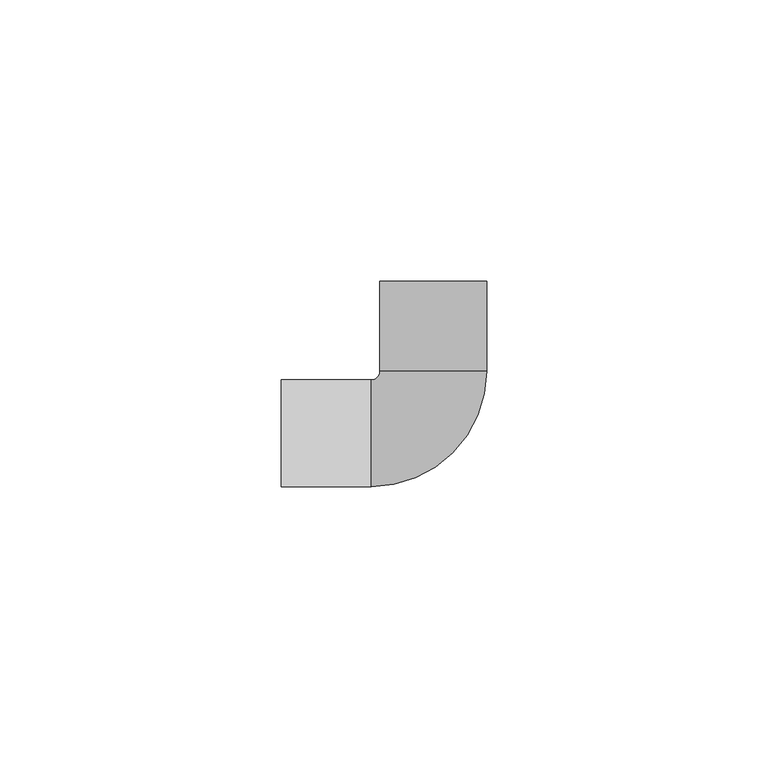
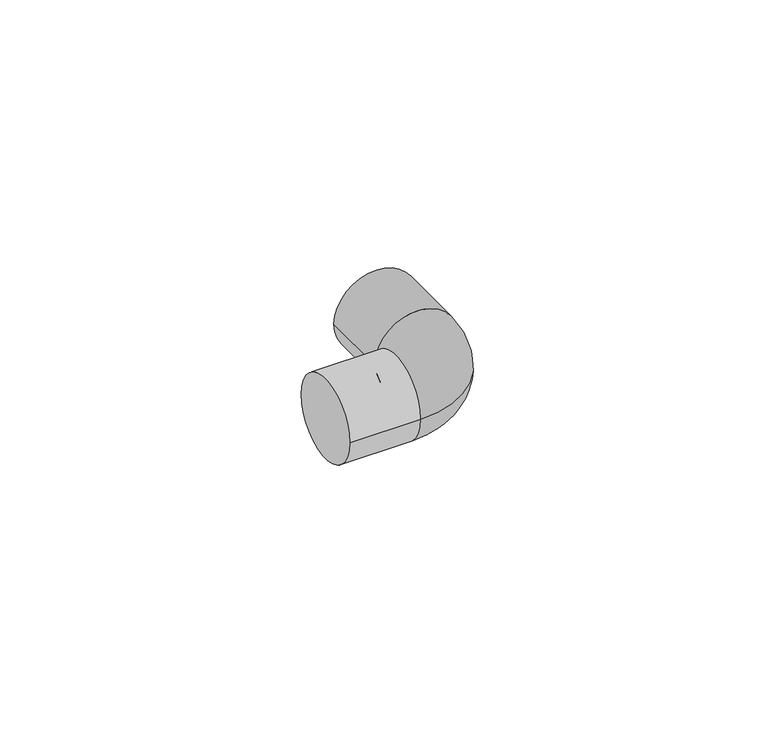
"""IFC4 building model written with IfcOpenShell, lengths in millimetres: pipe fitting geometry, 01101002 : Joelho a 90º."""

from ifc_helpers import new_model, si_unit, point, frame, origin, place, context, project, spatial, circle_curve, ellipse_curve, trimmed, source, transform, mapped, element, save
from ifc_brep_helpers import plane_surface, cylinder_surface, revolved_surface, advanced_brep


def pipe_fitting_e1d31a7d(model_context):
    return source(origin(), model_context, "Body", "AdvancedBrep", [
        advanced_brep(
        [(-11.0, -9.5, 0.0), (9.5, 11.0, 0.0), (-9.5, 11.0, 0.0), (-11.0, 9.5, 0.0), (-9.5, 27.0, 0.0), (9.5, 27.0, 0.0), (-27.0, 9.5, 0.0), (-27.0, -9.5, 0.0)],
        [
            (0, 1, circle_curve(frame((-11.0, 11.0, 0.0), z_axis=(0.0, 0.0, 1.0), x_axis=(1.0, 0.0, 0.0)), 20.5)),
            (1, 2, circle_curve(frame((0.0, 11.0, 0.0), z_axis=(0.0, -1.0, 0.0), x_axis=(1.0, 0.0, 0.0)), 9.5)),
            (2, 3, circle_curve(frame((-11.0, 11.0, 0.0), z_axis=(0.0, 0.0, -1.0), x_axis=(1.0, 0.0, 0.0)), 1.5)),
            (3, 0, circle_curve(frame((-11.0, 0.0, 0.0), z_axis=(1.0, 0.0, 0.0), x_axis=(0.0, -1.0, 0.0)), 9.5)),
            (2, 1, circle_curve(frame((0.0, 11.0, 0.0), z_axis=(0.0, -1.0, 0.0), x_axis=(1.0, 0.0, 0.0)), 9.5)),
            (0, 3, circle_curve(frame((-11.0, 0.0, 0.0), z_axis=(1.0, 0.0, 0.0), x_axis=(0.0, -1.0, 0.0)), 9.5)),
            (4, 5, circle_curve(frame((0.0, 27.0, 0.0), z_axis=(0.0, 1.0, 0.0), x_axis=(1.0, 0.0, 0.0)), 9.5)),
            (5, 4, circle_curve(frame((0.0, 27.0, 0.0), z_axis=(0.0, 1.0, 0.0), x_axis=(1.0, 0.0, 0.0)), 9.5)),
            (6, 7, circle_curve(frame((-27.0, 0.0, 0.0), z_axis=(-1.0, 0.0, 0.0), x_axis=(0.0, -1.0, 0.0)), 9.5)),
            (7, 6, circle_curve(frame((-27.0, 0.0, 0.0), z_axis=(-1.0, 0.0, 0.0), x_axis=(0.0, -1.0, 0.0)), 9.5)),
            (3, 6),
            (7, 0),
            (4, 2),
            (1, 5),
        ],
        [
            revolved_surface(trimmed(ellipse_curve(frame((0.0, 11.0, 0.0), z_axis=(0.0, 1.0, 0.0), x_axis=(1.0, 0.0, 0.0)), 9.5, 9.5), [point((-9.5, 11.0, 0.0))], [point((9.5, 11.0, 0.0))], True, "CARTESIAN"), (-11.0, 11.0, 0.0), (0.0, 0.0, -1.0)),
            revolved_surface(trimmed(ellipse_curve(frame((0.0, 11.0, 0.0), z_axis=(0.0, 1.0, 0.0), x_axis=(1.0, 0.0, 0.0)), 9.5, 9.5), [point((9.5, 11.0, 0.0))], [point((-9.5, 11.0, 0.0))], True, "CARTESIAN"), (-11.0, 11.0, 0.0), (0.0, 0.0, -1.0)),
            plane_surface(frame((0.0, 27.0, 0.0), z_axis=(0.0, 1.0, 0.0), x_axis=(0.0, 0.0, 1.0))),
            plane_surface(frame((-27.0, 0.0, 0.0), z_axis=(-1.0, 0.0, 0.0), x_axis=(0.0, 0.0, 1.0))),
            cylinder_surface(frame((-11.0, 0.0, 0.0), z_axis=(1.0, 0.0, 0.0), x_axis=(0.0, -1.0, 0.0)), 9.5),
            cylinder_surface(frame((0.0, 27.0, 0.0), z_axis=(0.0, 1.0, 0.0), x_axis=(1.0, 0.0, 0.0)), 9.5),
        ],
        [
            (0, [[1, 2, 3, 4]]),
            (1, [[-3, 5, -1, 6]]),
            (2, [[7, 8]]),
            (3, [[9, 10]]),
            (4, [[-4, 11, -10, 12]]),
            (4, [[-6, -12, -9, -11]]),
            (5, [[-7, 13, -2, 14]]),
            (5, [[-8, -14, -5, -13]]),
        ],
    ),
    ])


if __name__ == "__main__":
    model = new_model("IFC4")
    model_context = context("Model", 3, world=origin())
    ifc_project = project(units=[si_unit("LENGTHUNIT", "METRE", prefix="MILLI")], contexts=[model_context])
    site = spatial("IfcSite", under=ifc_project)
    building = spatial("IfcBuilding", under=site)
    placement = place(None, origin())
    pipe_fitting_shape = pipe_fitting_e1d31a7d(model_context)
    element("IfcPipeFitting", 1, ObjectType="01101002 : Joelho a 90º", at=placement, inside=building, context=model_context, shape_type="MappedRepresentation", body=[
        mapped(pipe_fitting_shape, transform((0.0, 0.0, 0.0), x_axis=(1.0, 0.0, 0.0), y_axis=(0.0, 1.0, 0.0), z_axis=(0.0, 0.0, 1.0))),
    ])
    save(model, "model.ifc")
